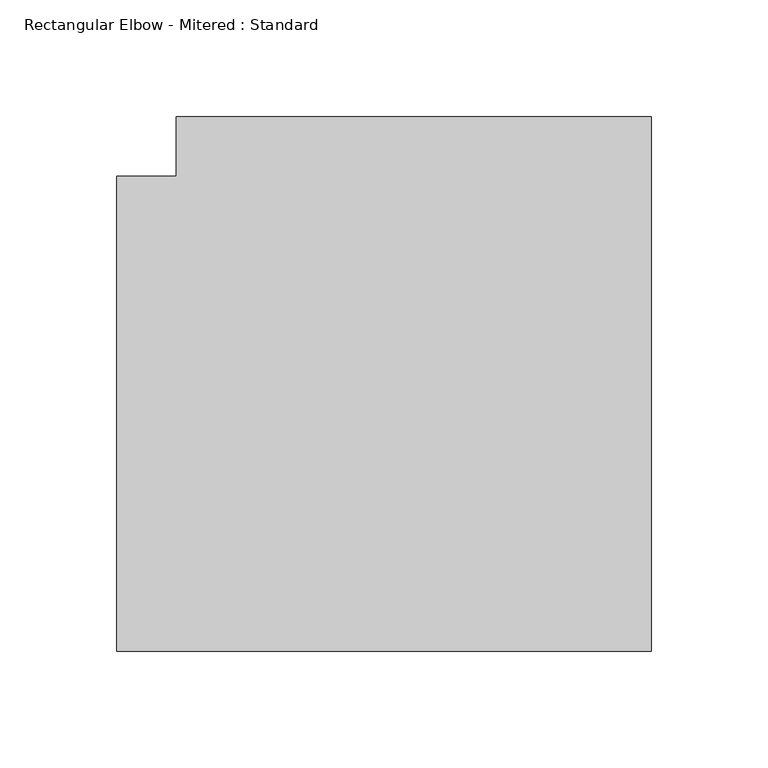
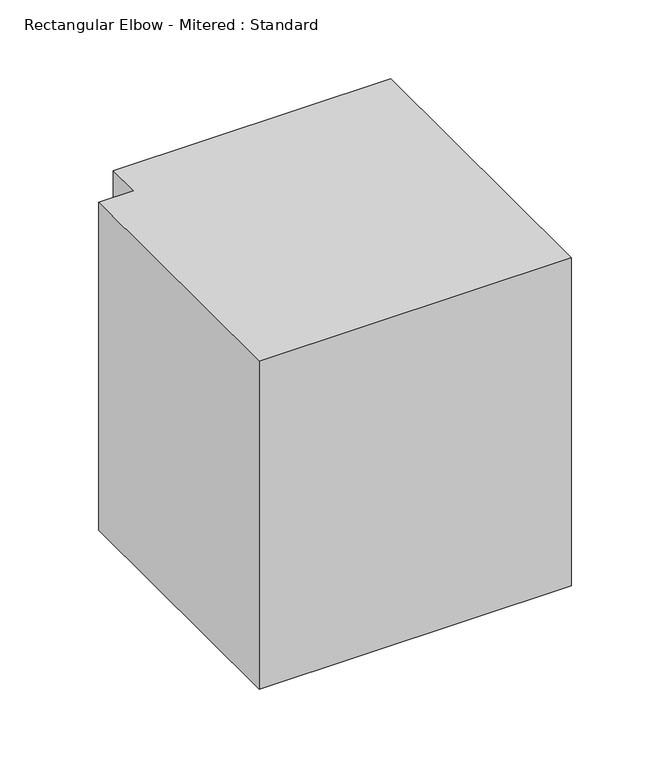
"""IFC4 building model written with IfcOpenShell, lengths in millimetres: duct fitting geometry, Rectangular Elbow - Mitered : Standard."""

import ifcopenshell
import ifcopenshell.guid

model = None  # the IFC model being written
_history = None  # IfcOwnerHistory: only IFC2X3 demands one
_inside = {}  # id of a spatial element -> (the spatial element, [elements in it])
_under = {}  # id of a project, library or spatial element -> (it, [spatial elements below it])
_declared = {}  # id of a project -> (the project, [libraries it declares])
_typed = {}  # id of a type object -> (the type object, [elements of that type])
_made_of = {}  # id of a material, layer set ... -> (it, [elements and type objects made of it])


def new_model(schema):
    """Start an empty IFC model of exactly this schema.

    Asked for "IFC4X3", IfcOpenShell would pick the latest addendum, in which some entities
    have other attributes; the version numbers below select the first issue.
    IFC2X3 requires an IfcOwnerHistory on every rooted entity: one is made here for all.
    """
    global model, _history
    if schema == "IFC4X3":
        model = ifcopenshell.file(schema_version=(4, 3, 0, 0))
    else:
        model = ifcopenshell.file(schema=schema)
    _inside.clear()
    _under.clear()
    _declared.clear()
    _typed.clear()
    _made_of.clear()
    _history = None
    if model.schema == "IFC2X3":
        org = make("IfcOrganization", Name="unknown")
        user = make(
            "IfcPersonAndOrganization",
            ThePerson=make("IfcPerson", FamilyName="unknown"),
            TheOrganization=org,
        )
        app = make(
            "IfcApplication",
            ApplicationDeveloper=org,
            Version="unknown",
            ApplicationFullName="unknown",
            ApplicationIdentifier="unknown",
        )
        _history = make(
            "IfcOwnerHistory",
            OwningUser=user,
            OwningApplication=app,
            ChangeAction="ADDED",
            CreationDate=0,
        )
    return model


def make(cls, **values):
    """One entity of the class cls with the attributes given. An attribute that is None is left unset."""
    return model.create_entity(
        cls, **{name: value for name, value in values.items() if value is not None}
    )


def rooted(cls, **values):
    """An entity with a GlobalId (a new one), such as an element, a storey or a relation."""
    return make(cls, GlobalId=ifcopenshell.guid.new(), OwnerHistory=_history, **values)


def si_unit(unit_type, name, prefix=None):
    """IfcSIUnit, for example si_unit("LENGTHUNIT", "METRE", prefix="MILLI")."""
    return make("IfcSIUnit", UnitType=unit_type, Prefix=prefix, Name=name)


def assignment(units):
    """IfcUnitAssignment: the units of a project."""
    return None if units is None else make("IfcUnitAssignment", Units=units)


def point(xyz):
    """IfcCartesianPoint."""
    return None if xyz is None else make("IfcCartesianPoint", Coordinates=xyz)


def direction(xyz):
    """IfcDirection."""
    return None if xyz is None else make("IfcDirection", DirectionRatios=xyz)


def frame(location, z_axis=None, x_axis=None):
    """IfcAxis2Placement3D, a coordinate frame: its origin and axes. An axis left out is left unset."""
    return make(
        "IfcAxis2Placement3D",
        Location=point(location),
        Axis=direction(z_axis),
        RefDirection=direction(x_axis),
    )


def origin():
    """The frame at (0, 0, 0) with its axes left unset."""
    return frame((0.0, 0.0, 0.0))


def place(relative_to, where):
    """IfcLocalPlacement: puts the frame where relative to a parent placement (None: the world)."""
    return make(
        "IfcLocalPlacement", PlacementRelTo=relative_to, RelativePlacement=where
    )


def context(
    kind, dimensions, precision=None, world=None, true_north=None, identifier=None
):
    """IfcGeometricRepresentationContext, for example the 3D "Model" context."""
    return make(
        "IfcGeometricRepresentationContext",
        ContextIdentifier=identifier,
        ContextType=kind,
        CoordinateSpaceDimension=dimensions,
        Precision=precision,
        WorldCoordinateSystem=world,
        TrueNorth=true_north,
    )


def project(units=None, contexts=None):
    """IfcProject with its units and contexts."""
    return rooted(
        "IfcProject",
        Name="project",
        RepresentationContexts=contexts,
        UnitsInContext=assignment(units),
    )


def spatial(cls, under=None, at=None, **own):
    """A site, building, storey or space (cls), placed at a placement, below another one or the project."""
    s = rooted(cls, ObjectPlacement=at, **own)
    if under is not None:
        _under.setdefault(under.id(), (under, []))[1].append(s)
    return s


def polyline(points):
    """IfcPolyline through the points."""
    return make("IfcPolyline", Points=[point(p) for p in points])


def outline(outer, holes=None, kind="AREA"):
    """IfcArbitraryClosedProfileDef: a profile drawn as a closed curve; with holes, ...WithVoids."""
    if holes is None:
        return make("IfcArbitraryClosedProfileDef", ProfileType=kind, OuterCurve=outer)
    return make(
        "IfcArbitraryProfileDefWithVoids",
        ProfileType=kind,
        OuterCurve=outer,
        InnerCurves=holes,
    )


def extrude(swept, where, along, depth):
    """IfcExtrudedAreaSolid: the profile swept, set in the frame where, extruded along a direction by depth."""
    return make(
        "IfcExtrudedAreaSolid",
        SweptArea=swept,
        Position=where,
        ExtrudedDirection=direction(along),
        Depth=depth,
    )


def shape(context_of_items, identifier, shape_type, items):
    """IfcShapeRepresentation: the items that make up one representation, for example the "Body"."""
    return make(
        "IfcShapeRepresentation",
        ContextOfItems=context_of_items,
        RepresentationIdentifier=identifier,
        RepresentationType=shape_type,
        Items=items,
    )


def source(mapping_origin, context_of_items, identifier, shape_type, items):
    """IfcRepresentationMap: a shape defined once, which mapped items show again and again."""
    return make(
        "IfcRepresentationMap",
        MappingOrigin=mapping_origin,
        MappedRepresentation=shape(context_of_items, identifier, shape_type, items),
    )


def transform(
    local_origin,
    x_axis=None,
    y_axis=None,
    z_axis=None,
    scale=None,
    scale2=None,
    scale3=None,
    uniform=True,
):
    """IfcCartesianTransformationOperator3D, or its non-uniform kind. x_axis, y_axis, z_axis: its Axis1, 2, 3."""
    if uniform:
        return make(
            "IfcCartesianTransformationOperator3D",
            Axis1=direction(x_axis),
            Axis2=direction(y_axis),
            LocalOrigin=point(local_origin),
            Scale=scale,
            Axis3=direction(z_axis),
        )
    return make(
        "IfcCartesianTransformationOperator3DnonUniform",
        Axis1=direction(x_axis),
        Axis2=direction(y_axis),
        LocalOrigin=point(local_origin),
        Scale=scale,
        Axis3=direction(z_axis),
        Scale2=scale2,
        Scale3=scale3,
    )


def mapped(mapping_source, mapping_target):
    """IfcMappedItem: shows the shape of a source again, moved by a transform."""
    return make(
        "IfcMappedItem", MappingSource=mapping_source, MappingTarget=mapping_target
    )


def made_of(thing, what):
    """Note that an element or type object is made of a material, layer set ...; save() writes the relation."""
    if what is not None:
        _made_of.setdefault(what.id(), (what, []))[1].append(thing)
    return thing


def element(
    cls,
    number,
    at=None,
    inside=None,
    cuts=None,
    type_object=None,
    material=None,
    context=None,
    identifier="Body",
    shape_type=None,
    held_by="IfcProductDefinitionShape",
    body=None,
    shapes=None,
    **own,
):
    """One element of the class cls, such as IfcWall. Its Tag is "e" and its number.

    at: its placement. inside: the storey or other place that contains it. cuts: it is an
    opening in that element (IfcRelVoidsElement). A single representation is given by context,
    identifier, shape_type and body (its items); several are given by shapes. held_by: the class
    of the entity that holds the representations. save() writes the other relations.
    """
    e = rooted(cls, Tag="e%d" % number, ObjectPlacement=at, **own)
    if body is not None:
        shapes = [shape(context, identifier, shape_type, body)]
    if shapes is not None:
        e.Representation = make(held_by, Representations=shapes)
    if inside is not None:
        _inside.setdefault(inside.id(), (inside, []))[1].append(e)
    if cuts is not None:
        rooted(
            "IfcRelVoidsElement", RelatingBuildingElement=cuts, RelatedOpeningElement=e
        )
    if type_object is not None:
        _typed.setdefault(type_object.id(), (type_object, []))[1].append(e)
    return made_of(e, material)


def aggregate(whole, parts):
    """IfcRelAggregates: a whole, such as a stair, and the parts it consists of."""
    return rooted("IfcRelAggregates", RelatingObject=whole, RelatedObjects=parts)


def save(model, path):
    """Write the relations noted so far, then the file.

    IfcRelAggregates (storeys below a building ...), IfcRelContainedInSpatialStructure (elements
    in a storey), IfcRelDefinesByType, IfcRelAssociatesMaterial and IfcRelDeclares: one each for
    every whole, place, type object, material and project.
    """
    for whole, parts in _under.values():
        aggregate(whole, parts)
    for where, things in _inside.values():
        rooted(
            "IfcRelContainedInSpatialStructure",
            RelatedElements=things,
            RelatingStructure=where,
        )
    for kind, things in _typed.values():
        rooted("IfcRelDefinesByType", RelatedObjects=things, RelatingType=kind)
    for what, things in _made_of.values():
        rooted("IfcRelAssociatesMaterial", RelatedObjects=things, RelatingMaterial=what)
    for by, libraries in _declared.values():
        rooted("IfcRelDeclares", RelatingContext=by, RelatedDefinitions=libraries)
    model.write(path)


def rectangular_elbow_mitered_standard_d7b64f5d(model_context):
    return source(origin(), model_context, "Body", "SweptSolid", [
        extrude(outline(polyline([(-127.0, -101.6), (-127.0, 101.6), (-101.6, 101.6), (-101.6, 127.0), (101.6, 127.0), (101.6, -101.6), (-127.0, -101.6)])), frame((0.0, 0.0, -127.0), z_axis=(0.0, 0.0, 1.0), x_axis=(1.0, 0.0, 0.0)), (0.0, 0.0, 1.0), 254.0),
    ])


if __name__ == "__main__":
    model = new_model("IFC4")
    model_context = context("Model", 3, world=origin())
    ifc_project = project(units=[si_unit("LENGTHUNIT", "METRE", prefix="MILLI")], contexts=[model_context])
    site = spatial("IfcSite", under=ifc_project)
    building = spatial("IfcBuilding", under=site)
    placement = place(None, origin())
    rectangular_elbow_mitered_standard_shape = rectangular_elbow_mitered_standard_d7b64f5d(model_context)
    element("IfcDuctFitting", 1, ObjectType="Rectangular Elbow - Mitered : Standard", at=placement, inside=building, context=model_context, shape_type="MappedRepresentation", body=[
        mapped(rectangular_elbow_mitered_standard_shape, transform((0.0, 0.0, 0.0), x_axis=(1.0, 0.0, 0.0), y_axis=(0.0, 1.0, 0.0), z_axis=(0.0, 0.0, 1.0))),
    ])
    save(model, "model.ifc")
